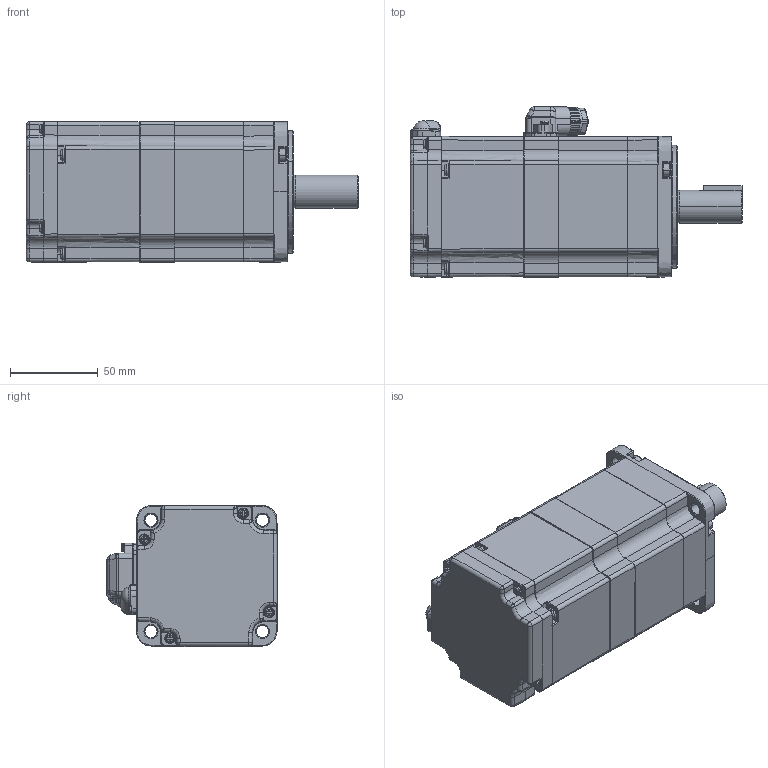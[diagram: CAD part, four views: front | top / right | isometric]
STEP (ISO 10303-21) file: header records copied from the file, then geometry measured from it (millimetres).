
FILE_DESCRIPTION( (''), '2;1');
FILE_NAME ('SGMXJ-08AUA6EC2.stp','2022-03-02T11:29:15',(''),(''),'spGate 15.6.6','','');
FILE_SCHEMA (('AUTOMOTIVE_DESIGN'));
Length unit declared in the file: millimetre
Products named in the file (9): Assembly; SGMXJ-08AUA6EC2-prt0; SGMXJ-08AUA6EC2-prt1; SGMXJ-08AUA6EC2-prt2; SGMXJ-08AUA6EC2-prt3; SGMXJ-08AUA6EC2-prt4; SGMXJ-08AUA6EC2-prt5; SGMXJ-08AUA6EC2-prt6; SGMXJ-08AUA6EC2-prt7
Assembly tree (8 placements, depth 2):
  Assembly
    SGMXJ-08AUA6EC2-prt0
    SGMXJ-08AUA6EC2-prt1
    SGMXJ-08AUA6EC2-prt2
    SGMXJ-08AUA6EC2-prt3
    SGMXJ-08AUA6EC2-prt4
    SGMXJ-08AUA6EC2-prt5
    SGMXJ-08AUA6EC2-prt6
    SGMXJ-08AUA6EC2-prt7
Bounding box: 189.5 x 97.15 x 80.49 mm (x, y, z)
Volume: 878049.6 mm3; surface area: 68653.5 mm2
Topology: 3 solids, 8 shells, 1165 faces, 2996 edges, 1852 vertices
Faces by surface type: plane 422, bspline 371, cylinder 340, sphere 32
Entity records: 68635 total; most frequent: CARTESIAN_POINT 19167, ORIENTED_EDGE 5770, DIRECTION 4877, COLOUR_RGB 4141, PRESENTATION_STYLE_ASSIGNMENT 4141, STYLED_ITEM 4141, EDGE_CURVE 2968, DRAUGHTING_PRE_DEFINED_CURVE_FONT 2968
